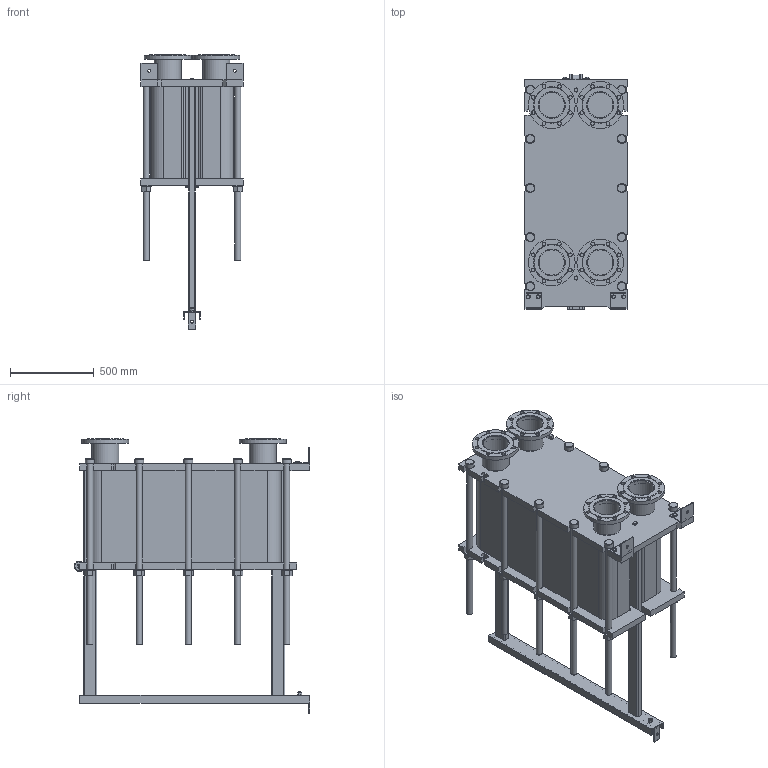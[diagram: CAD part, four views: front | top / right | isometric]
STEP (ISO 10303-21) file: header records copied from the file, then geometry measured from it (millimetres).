
FILE_DESCRIPTION(/* description */ (''),/* implementation_level */ '2;1');
FILE_NAME(/* name */ 'C:\Users\zhuro\Desktop\ENCO\TO\ЭН-041\ЭН-0,5-041-160-1.stp',/* time_stamp */ '2022-06-06T11:03:41+03:00',/* author */ ('zhuro'),/* organization */ (''),/* preprocessor_version */ 'ST-DEVELOPER v18.1',/* originating_system */ 'Autodesk Inventor 2022',/* authorisation */ '');
FILE_SCHEMA (('AUTOMOTIVE_DESIGN { 1 0 10303 214 3 1 1 }'));
Length unit declared in the file: millimetre
Products named in the file (1): ЭН-0,5-041-160-1
Bounding box: 610 x 1406.5 x 1640 mm (x, y, z)
Volume: 395154883.3 mm3; surface area: 10347461.9 mm2
Topology: 52 solids, 52 shells, 711 faces, 1696 edges, 1094 vertices
Faces by surface type: plane 487, cylinder 177, cone 41, torus 6
Full cylindrical faces by diameter (mm): 8 x4, 10 x2, 16 x8, 18 x3, 22 x32, 36 x24, 50 x1, 54 x10, 60 x12, 151 x4, 161 x8, 280 x4
Entity records: 22667 total; most frequent: CARTESIAN_POINT 5230, DIRECTION 3644, ORIENTED_EDGE 3392, EDGE_CURVE 1696, AXIS2_PLACEMENT_3D 1272, LINE 1100, VECTOR 1100, VERTEX_POINT 1094
